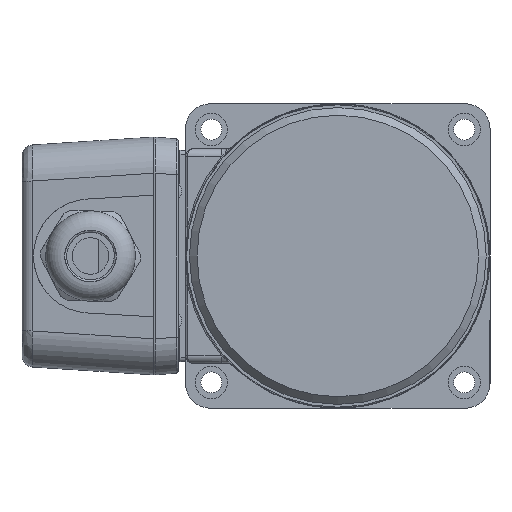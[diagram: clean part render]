
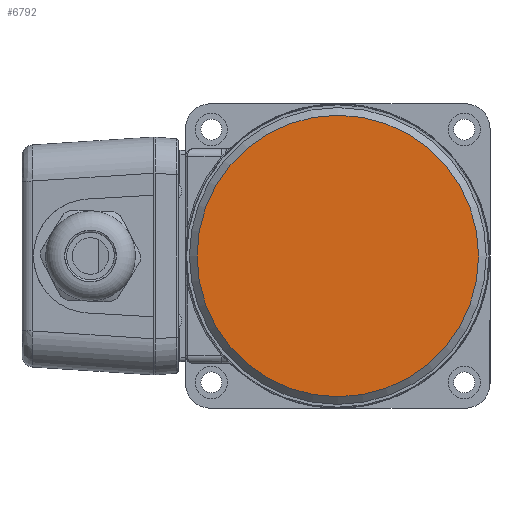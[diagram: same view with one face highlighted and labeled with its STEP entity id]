
A CAD part, left-side view. The second image highlights one B-rep face of the part: STEP entity #6792.
In plain terms, the highlighted planar face has unit normal (-1, 0, 0).
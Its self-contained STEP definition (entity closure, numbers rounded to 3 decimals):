
#6776=CARTESIAN_POINT('',(0.0,18.5,0.0));
#6777=DIRECTION('',(-1.0,0.0,0.0));
#6778=DIRECTION('',(0.0,0.0,1.0));
#6779=AXIS2_PLACEMENT_3D('',#6776,#6777,#6778);
#6780=PLANE('',#6779);
#6781=CARTESIAN_POINT('',(0.0,37.,0.0));
#6782=VERTEX_POINT('',#6781);
#6783=CARTESIAN_POINT('',(0.,0.,0.0));
#6784=DIRECTION('',(1.0,0.0,0.0));
#6785=DIRECTION('',(0.0,1.0,0.0));
#6786=AXIS2_PLACEMENT_3D('',#6783,#6784,#6785);
#6787=CIRCLE('',#6786,37.);
#6788=EDGE_CURVE('',#6782,#6782,#6787,.T.);
#6789=ORIENTED_EDGE('',*,*,#6788,.F.);
#6790=EDGE_LOOP('',(#6789));
#6791=FACE_OUTER_BOUND('',#6790,.T.);
#6792=ADVANCED_FACE('',(#6791),#6780,.T.);
